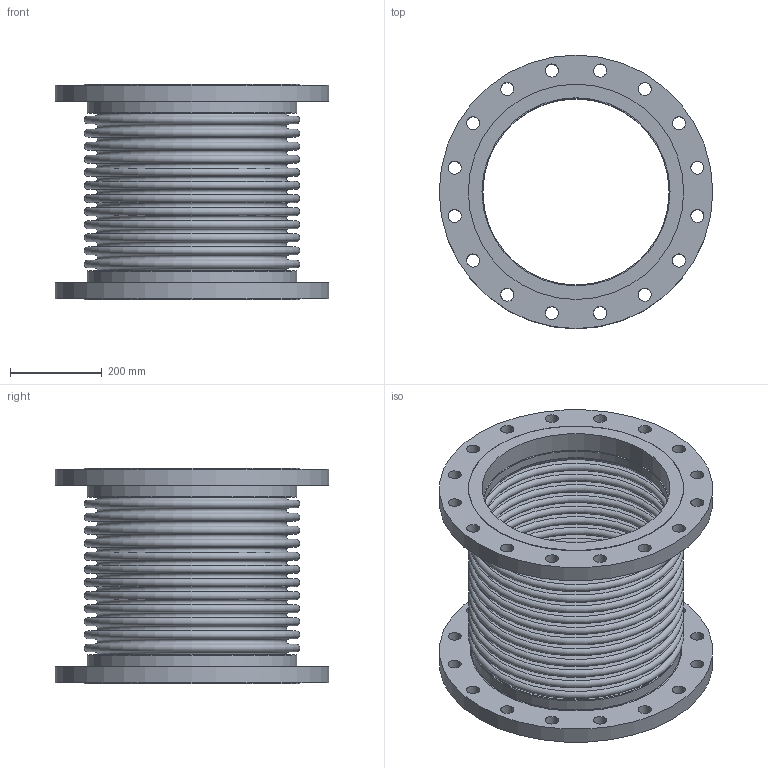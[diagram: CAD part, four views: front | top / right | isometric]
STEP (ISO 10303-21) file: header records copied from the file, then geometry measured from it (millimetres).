
FILE_DESCRIPTION(/* description */ ('EXPANSION JOINT,SINGLE, FLANGED ENDS,16 INCH','CAx-IF Rec.Pracs.---Representation and Presentation of Product Manufacturing Information (PMI)---4.0---2014-10-13'),/* implementation_level */ '2;1');
FILE_NAME(/* name */ 'US-16-12-300L-FLANGED ENDS.stp',/* time_stamp */ '2026-07-31T17:33:07-05:00',/* author */ ('Guadalupe'),/* organization */ (''),/* preprocessor_version */ 'ST-DEVELOPER v20.1',/* originating_system */ 'Autodesk Inventor 2026',/* authorisation */ '');
FILE_SCHEMA (('AP242_MANAGED_MODEL_BASED_3D_ENGINEERING_MIM_LF { 1 0 10303 442 2 1 4 }'));
Length unit declared in the file: inch
Products named in the file (3): 16-300L; 16-300L-02; 16-300L-01
Assembly tree (3 placements, depth 2):
  16-300L
    16-300L-02  x2
    16-300L-01
Bounding box: 596.9 x 596.9 x 469.9 mm (x, y, z)
Volume: 15322252 mm3; surface area: 3579736.4 mm2
Topology: 5 solids, 5 shells, 160 faces, 294 edges, 196 vertices
Faces by surface type: plane 62, torus 54, cylinder 44
Full cylindrical faces by diameter (mm): 28.575 x32, 406.4 x2, 410.464 x2, 412.496 x2, 457.2 x2, 469.9 x2, 596.9 x2
Entity records: 3606 total; most frequent: DIRECTION 738, CARTESIAN_POINT 537, ORIENTED_EDGE 456, AXIS2_PLACEMENT_3D 357, EDGE_CURVE 228, EDGE_LOOP 224, CIRCLE 204, VERTEX_POINT 152
